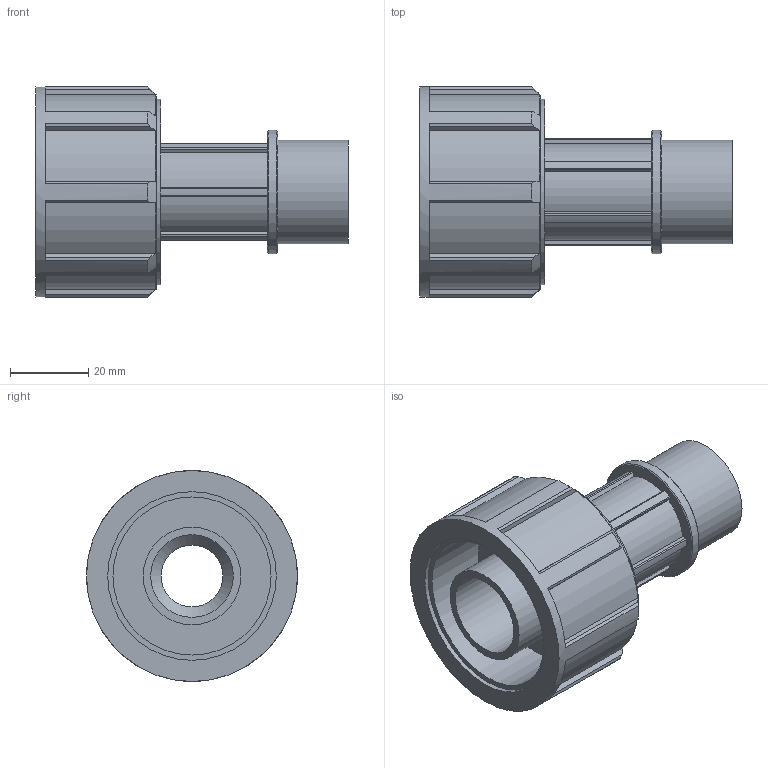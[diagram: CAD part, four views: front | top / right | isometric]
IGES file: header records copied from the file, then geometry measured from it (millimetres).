
Global section: file name: 072500025007_182500025007_0725060250070A.ipt; native system: Autodesk Inventor 2015; preprocessor: unknown; author: KIM; date: 20170608.042136; units: millimetre
Bounding box: 80 x 54 x 54 mm (x, y, z)
Volume: 48752.3 mm3; surface area: 25344.9 mm2
Topology: 1 solids, 1 shells, 108 faces, 300 edges, 202 vertices
Faces by surface type: plane 74, cylinder 25, revolution 6, cone 3
Full cylindrical faces by diameter (mm): 25 x1, 26.441 x1, 31.729 x1, 47.52 x1, 54 x1
